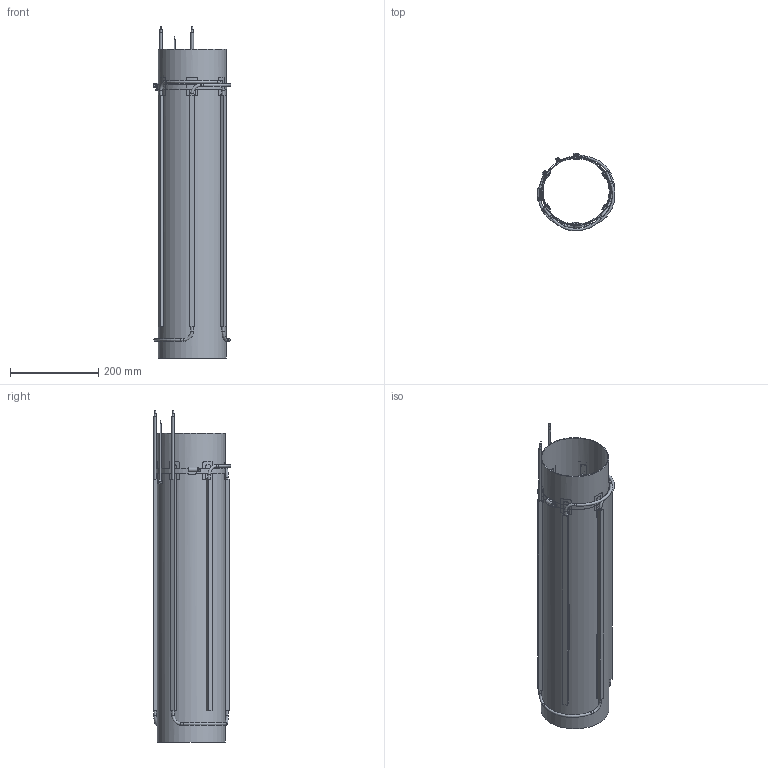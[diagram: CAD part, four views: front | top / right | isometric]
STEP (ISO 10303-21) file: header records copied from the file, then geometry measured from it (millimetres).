
FILE_DESCRIPTION(/* description */ (''),/* implementation_level */ '2;1');
FILE_NAME(/* name */ 'CONVEYOSTAT154.0_3D',/* time_stamp */ '2015-03-05T14:55:45+01:00',/* author */ (''),/* organization */ (''),/* preprocessor_version */ 'ST-DEVELOPER v15.7',/* originating_system */ 'HiCAD 2014 1902.2 Build 487',/* authorisation */ '');
FILE_SCHEMA (('AUTOMOTIVE_DESIGN { 1 0 10303 214 1 1 1 1 }'));
Products named in the file (4): Root; O.D.154_Assembly; O.D. 154; MB13SF_2
Assembly tree (3 placements, depth 4):
  Root
    O.D.154_Assembly
      O.D. 154
        MB13SF_2
Bounding box: 176.5 x 176.62 x 753 mm (x, y, z)
Volume: 1049617 mm3; surface area: 936990.5 mm2
Topology: 5 solids, 7 shells, 591 faces, 1694 edges, 1107 vertices
Faces by surface type: plane 338, cylinder 206, cone 33, torus 14
Full cylindrical faces by diameter (mm): 1 x2, 1.42 x24, 2.4 x1, 2.5 x2, 3.141 x2, 4 x3, 4.019 x2, 4.6 x6, 4.8 x6, 5.3 x2, 6 x18, 150 x1, 154 x1
Entity records: 65298 total; most frequent: CARTESIAN_POINT 38359, PRESENTATION_STYLE_ASSIGNMENT 3043, DRAUGHTING_PRE_DEFINED_CURVE_FONT 3038, CURVE_STYLE 3038, OVER_RIDING_STYLED_ITEM 3038, ORIENTED_EDGE 3038, DIRECTION 3032, EDGE_CURVE 1519
